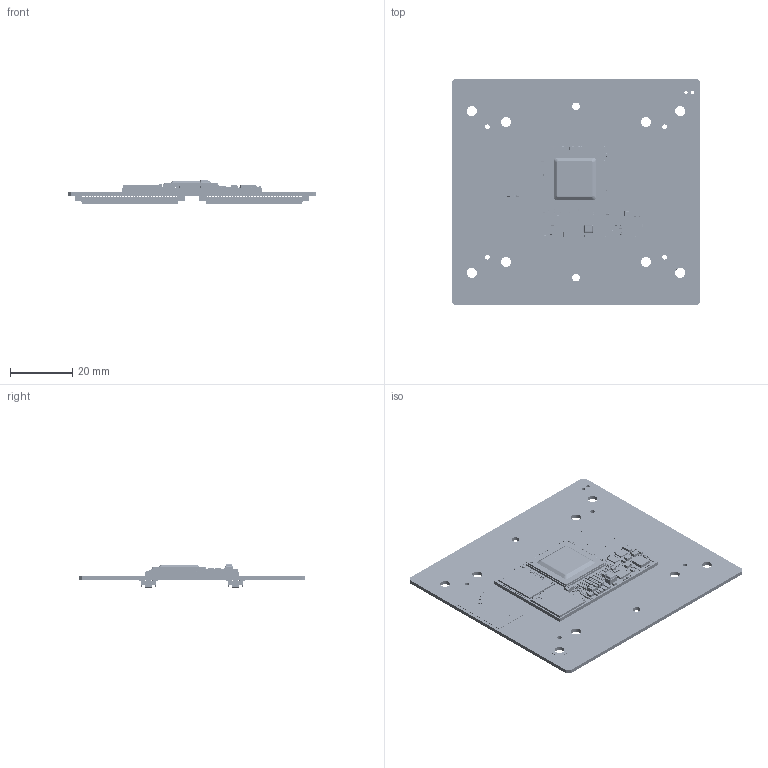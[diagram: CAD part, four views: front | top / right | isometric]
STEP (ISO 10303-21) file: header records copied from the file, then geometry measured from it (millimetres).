
FILE_DESCRIPTION (( 'STEP AP203' ), '1' );
FILE_NAME ('940-00670.STEP', '2026-07-27T04:04:37', ( '' ), ( '' ), 'SwSTEP 2.0', 'SolidWorks 2025', '' );
FILE_SCHEMA (( 'CONFIG_CONTROL_DESIGN' ));
Products named in the file (1): 940-00670
Bounding box: 80 x 73 x 7.69 mm (x, y, z)
Surface area: 25810.1 mm2 (no closed solid volume)
Topology: 0 solids, 3380 shells, 42476 faces, 106953 edges, 69146 vertices
Faces by surface type: plane 36318, cylinder 3705, sphere 2114, bspline 339
Entity records: 1234458 total; most frequent: CARTESIAN_POINT 242866, ORIENTED_EDGE 207818, DIRECTION 191563, EDGE_CURVE 103954, VECTOR 93289, LINE 93289, VERTEX_POINT 68257, AXIS2_PLACEMENT_3D 49137
